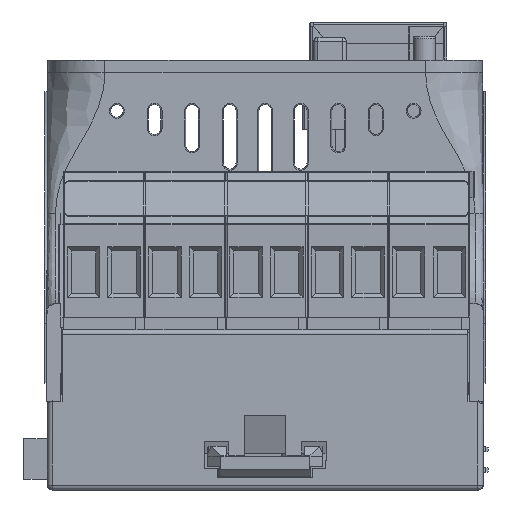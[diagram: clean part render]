
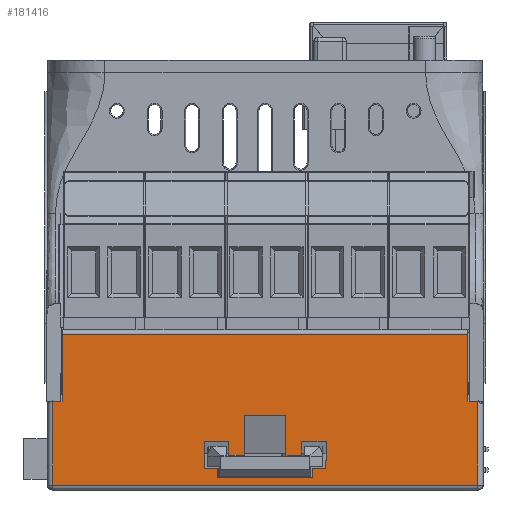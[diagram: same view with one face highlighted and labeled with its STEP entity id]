
A CAD part, front view. The second image highlights one B-rep face of the part: STEP entity #181416.
In plain terms, the highlighted planar face has unit normal (0, -1, 0).
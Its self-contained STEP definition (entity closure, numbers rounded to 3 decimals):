
#2505=FACE_BOUND('',#33395,.T.);
#15231=PLANE('',#192832);
#23970=FACE_OUTER_BOUND('',#33394,.T.);
#33394=EDGE_LOOP('',(#152381,#152382,#152383,#152384,#152385,#152386,#152387,
#152388,#152389,#152390));
#33395=EDGE_LOOP('',(#152391,#152392,#152393,#152394,#152395,#152396,#152397,
#152398,#152399,#152400,#152401,#152402,#152403,#152404,#152405,#152406));
#41110=LINE('',#253701,#62379);
#47244=LINE('',#289229,#68513);
#47390=LINE('',#290839,#68659);
#47408=LINE('',#291066,#68677);
#47409=LINE('',#291071,#68678);
#47413=LINE('',#291082,#68682);
#47419=LINE('',#291095,#68688);
#47438=LINE('',#291134,#68707);
#47440=LINE('',#291139,#68709);
#48167=LINE('',#293013,#69436);
#48168=LINE('',#293016,#69437);
#48170=LINE('',#293020,#69439);
#48172=LINE('',#293024,#69441);
#48175=LINE('',#293029,#69444);
#48176=LINE('',#293031,#69445);
#48178=LINE('',#293035,#69447);
#48180=LINE('',#293039,#69449);
#48181=LINE('',#293042,#69450);
#48183=LINE('',#293045,#69452);
#48184=LINE('',#293049,#69453);
#48185=LINE('',#293053,#69454);
#48186=LINE('',#293056,#69455);
#48187=LINE('',#293059,#69456);
#48188=LINE('',#293061,#69457);
#48189=LINE('',#293063,#69458);
#48190=LINE('',#293065,#69459);
#62379=VECTOR('',#205472,1.);
#68513=VECTOR('',#219910,1.);
#68659=VECTOR('',#220328,1.);
#68677=VECTOR('',#220378,1.);
#68678=VECTOR('',#220385,1.);
#68682=VECTOR('',#220395,1.);
#68688=VECTOR('',#220405,1.);
#68707=VECTOR('',#220430,1.);
#68709=VECTOR('',#220434,1.);
#69436=VECTOR('',#222153,1.);
#69437=VECTOR('',#222156,1.);
#69439=VECTOR('',#222160,1.);
#69441=VECTOR('',#222164,1.);
#69444=VECTOR('',#222169,1.);
#69445=VECTOR('',#222172,1.);
#69447=VECTOR('',#222176,1.);
#69449=VECTOR('',#222180,1.);
#69450=VECTOR('',#222183,1.);
#69452=VECTOR('',#222187,1.);
#69453=VECTOR('',#222192,1.);
#69454=VECTOR('',#222197,1.);
#69455=VECTOR('',#222202,1.);
#69456=VECTOR('',#222207,1.);
#69457=VECTOR('',#222210,1.);
#69458=VECTOR('',#222213,1.);
#69459=VECTOR('',#222216,1.);
#86018=VERTEX_POINT('',#253698);
#86019=VERTEX_POINT('',#253700);
#91313=VERTEX_POINT('',#288496);
#91397=VERTEX_POINT('',#289228);
#91515=VERTEX_POINT('',#290831);
#91516=VERTEX_POINT('',#290838);
#91529=VERTEX_POINT('',#291065);
#91530=VERTEX_POINT('',#291069);
#91533=VERTEX_POINT('',#291079);
#91534=VERTEX_POINT('',#291081);
#91538=VERTEX_POINT('',#291092);
#91539=VERTEX_POINT('',#291094);
#91556=VERTEX_POINT('',#291132);
#91558=VERTEX_POINT('',#291138);
#92060=VERTEX_POINT('',#292959);
#92064=VERTEX_POINT('',#292992);
#92065=VERTEX_POINT('',#293011);
#92066=VERTEX_POINT('',#293015);
#92067=VERTEX_POINT('',#293019);
#92068=VERTEX_POINT('',#293023);
#92069=VERTEX_POINT('',#293027);
#92070=VERTEX_POINT('',#293033);
#92071=VERTEX_POINT('',#293037);
#92072=VERTEX_POINT('',#293041);
#92073=VERTEX_POINT('',#293048);
#92074=VERTEX_POINT('',#293052);
#103882=EDGE_CURVE('',#86018,#86019,#41110,.T.);
#112142=EDGE_CURVE('',#91397,#91313,#47244,.T.);
#112365=EDGE_CURVE('',#91516,#91515,#47390,.T.);
#112393=EDGE_CURVE('',#91529,#91397,#47408,.T.);
#112396=EDGE_CURVE('',#91515,#91530,#47409,.T.);
#112401=EDGE_CURVE('',#91534,#91533,#47413,.T.);
#112407=EDGE_CURVE('',#91538,#91539,#47419,.T.);
#112428=EDGE_CURVE('',#91533,#91556,#47438,.T.);
#112430=EDGE_CURVE('',#91558,#91534,#47440,.T.);
#113314=EDGE_CURVE('',#86018,#92065,#48167,.T.);
#113315=EDGE_CURVE('',#86019,#92066,#48168,.T.);
#113317=EDGE_CURVE('',#92067,#92066,#48170,.T.);
#113319=EDGE_CURVE('',#92068,#91558,#48172,.T.);
#113322=EDGE_CURVE('',#92069,#92068,#48175,.T.);
#113323=EDGE_CURVE('',#92069,#91538,#48176,.T.);
#113325=EDGE_CURVE('',#92070,#91539,#48178,.T.);
#113327=EDGE_CURVE('',#92070,#92071,#48180,.T.);
#113328=EDGE_CURVE('',#92072,#92071,#48181,.T.);
#113330=EDGE_CURVE('',#92072,#92065,#48183,.T.);
#113331=EDGE_CURVE('',#92073,#91529,#48184,.T.);
#113333=EDGE_CURVE('',#92074,#92073,#48185,.T.);
#113335=EDGE_CURVE('',#92074,#91530,#48186,.T.);
#113336=EDGE_CURVE('',#92060,#91516,#48187,.T.);
#113337=EDGE_CURVE('',#92064,#92060,#48188,.T.);
#113338=EDGE_CURVE('',#91313,#92064,#48189,.T.);
#113339=EDGE_CURVE('',#91556,#92067,#48190,.T.);
#152381=ORIENTED_EDGE('',*,*,#113338,.T.);
#152382=ORIENTED_EDGE('',*,*,#113337,.T.);
#152383=ORIENTED_EDGE('',*,*,#113336,.T.);
#152384=ORIENTED_EDGE('',*,*,#112365,.T.);
#152385=ORIENTED_EDGE('',*,*,#112396,.T.);
#152386=ORIENTED_EDGE('',*,*,#113335,.F.);
#152387=ORIENTED_EDGE('',*,*,#113333,.T.);
#152388=ORIENTED_EDGE('',*,*,#113331,.T.);
#152389=ORIENTED_EDGE('',*,*,#112393,.T.);
#152390=ORIENTED_EDGE('',*,*,#112142,.T.);
#152391=ORIENTED_EDGE('',*,*,#113330,.F.);
#152392=ORIENTED_EDGE('',*,*,#113328,.T.);
#152393=ORIENTED_EDGE('',*,*,#113327,.F.);
#152394=ORIENTED_EDGE('',*,*,#113325,.T.);
#152395=ORIENTED_EDGE('',*,*,#112407,.F.);
#152396=ORIENTED_EDGE('',*,*,#113323,.F.);
#152397=ORIENTED_EDGE('',*,*,#113322,.T.);
#152398=ORIENTED_EDGE('',*,*,#113319,.T.);
#152399=ORIENTED_EDGE('',*,*,#112430,.T.);
#152400=ORIENTED_EDGE('',*,*,#112401,.T.);
#152401=ORIENTED_EDGE('',*,*,#112428,.T.);
#152402=ORIENTED_EDGE('',*,*,#113339,.T.);
#152403=ORIENTED_EDGE('',*,*,#113317,.T.);
#152404=ORIENTED_EDGE('',*,*,#113315,.F.);
#152405=ORIENTED_EDGE('',*,*,#103882,.F.);
#152406=ORIENTED_EDGE('',*,*,#113314,.T.);
#181416=ADVANCED_FACE('',(#23970,#2505),#15231,.F.);
#192832=AXIS2_PLACEMENT_3D('',#293066,#222217,#222218);
#205472=DIRECTION('',(0.009,0.,1.));
#219910=DIRECTION('',(-1.,0.,0.));
#220328=DIRECTION('',(-1.,0.,0.));
#220378=DIRECTION('',(-1.,0.,0.));
#220385=DIRECTION('',(-1.,0.,0.));
#220395=DIRECTION('',(1.,0.,0.));
#220405=DIRECTION('',(0.009,0.,-1.));
#220430=DIRECTION('',(0.,0.,-1.));
#220434=DIRECTION('',(0.,0.,1.));
#222153=DIRECTION('',(-1.,0.,0.));
#222156=DIRECTION('',(-1.,0.,-0.009));
#222160=DIRECTION('',(-0.009,0.,1.));
#222164=DIRECTION('',(1.,0.,0.));
#222169=DIRECTION('',(-0.009,0.,-1.));
#222172=DIRECTION('',(-1.,0.,0.009));
#222176=DIRECTION('',(-1.,0.,0.));
#222180=DIRECTION('',(0.009,0.,-1.));
#222183=DIRECTION('',(-1.,0.,0.));
#222187=DIRECTION('',(0.009,0.,1.));
#222192=DIRECTION('',(0.,0.,-1.));
#222197=DIRECTION('',(-1.,0.,0.));
#222202=DIRECTION('',(0.,0.,-1.));
#222207=DIRECTION('',(0.,0.,1.));
#222210=DIRECTION('',(1.,0.,0.));
#222213=DIRECTION('',(0.,0.,-1.));
#222216=DIRECTION('',(1.,0.,0.));
#222217=DIRECTION('center_axis',(0.,1.,0.));
#222218=DIRECTION('ref_axis',(0.,0.,
1.));
#253698=CARTESIAN_POINT('',(7.467,-44.644,-3.32));
#253700=CARTESIAN_POINT('',(7.496,-44.644,0.011));
#253701=CARTESIAN_POINT('',(7.645,-44.644,17.1));
#288496=CARTESIAN_POINT('',(-26.15,-44.644,4.871));
#289228=CARTESIAN_POINT('',(-25.14,-44.644,4.871));
#289229=CARTESIAN_POINT('',(-25.908,-44.644,4.871));
#290831=CARTESIAN_POINT('',(25.14,-44.644,4.871));
#290838=CARTESIAN_POINT('',(26.15,-44.644,4.871));
#290839=CARTESIAN_POINT('',(25.908,-44.644,4.871));
#291065=CARTESIAN_POINT('',(-24.941,-44.644,4.871));
#291066=CARTESIAN_POINT('',(-25.908,-44.644,4.871));
#291069=CARTESIAN_POINT('',(24.941,-44.644,4.871));
#291071=CARTESIAN_POINT('',(25.908,-44.644,4.871));
#291079=CARTESIAN_POINT('',(2.55,-44.644,3.175));
#291081=CARTESIAN_POINT('',(-2.55,-44.644,3.175));
#291082=CARTESIAN_POINT('',(38.979,-44.644,3.175));
#291092=CARTESIAN_POINT('',(-7.496,-44.644,0.011));
#291094=CARTESIAN_POINT('',(-7.467,-44.644,-3.32));
#291095=CARTESIAN_POINT('',(-7.645,-44.644,17.1));
#291132=CARTESIAN_POINT('',(2.55,-44.644,-1.725));
#291134=CARTESIAN_POINT('',(2.55,-44.644,6.016));
#291138=CARTESIAN_POINT('',(-2.55,-44.644,-1.725));
#291139=CARTESIAN_POINT('',(-2.55,-44.644,6.016));
#292959=CARTESIAN_POINT('',(26.15,-44.644,-5.4));
#292992=CARTESIAN_POINT('',(-26.15,-44.644,-5.4));
#293011=CARTESIAN_POINT('',(5.867,-44.644,-3.32));
#293013=CARTESIAN_POINT('',(3.728,-44.644,-3.32));
#293015=CARTESIAN_POINT('',(4.483,-44.644,-0.015));
#293016=CARTESIAN_POINT('',(3.784,-44.644,-0.021));
#293019=CARTESIAN_POINT('',(4.498,-44.644,-1.725));
#293020=CARTESIAN_POINT('',(4.443,-44.644,4.558));
#293023=CARTESIAN_POINT('',(-4.498,-44.644,-1.725));
#293024=CARTESIAN_POINT('',(38.979,-44.644,-1.725));
#293027=CARTESIAN_POINT('',(-4.483,-44.644,-0.015));
#293029=CARTESIAN_POINT('',(-4.443,-44.644,4.558));
#293031=CARTESIAN_POINT('',(-3.784,-44.644,-0.021));
#293033=CARTESIAN_POINT('',(-5.867,-44.644,-3.32));
#293035=CARTESIAN_POINT('',(-3.728,-44.644,-3.32));
#293037=CARTESIAN_POINT('',(-5.857,-44.644,-4.5));
#293039=CARTESIAN_POINT('',(-5.855,-44.644,-4.646));
#293041=CARTESIAN_POINT('',(5.857,-44.644,-4.5));
#293042=CARTESIAN_POINT('',(38.979,-44.644,-4.5));
#293045=CARTESIAN_POINT('',(5.855,-44.644,-4.646));
#293048=CARTESIAN_POINT('',(-24.941,-44.644,13.156));
#293049=CARTESIAN_POINT('',(-24.941,-44.644,17.506));
#293052=CARTESIAN_POINT('',(24.941,-44.644,13.156));
#293053=CARTESIAN_POINT('',(38.979,-44.644,13.156));
#293056=CARTESIAN_POINT('',(24.941,-44.644,17.506));
#293059=CARTESIAN_POINT('',(26.15,-44.644,17.506));
#293061=CARTESIAN_POINT('',(26.15,-44.644,-5.4));
#293063=CARTESIAN_POINT('',(-26.15,-44.644,17.506));
#293065=CARTESIAN_POINT('',(-38.979,-44.644,-1.725));
#293066=CARTESIAN_POINT('Origin',(38.979,-44.644,17.506));
